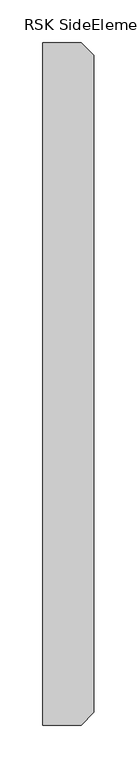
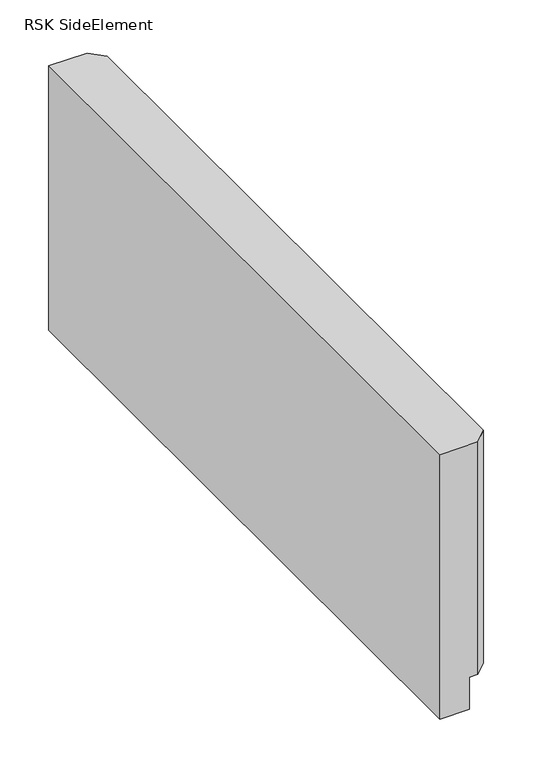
"""IFC4 building model written with IfcOpenShell, lengths in millimetres: proxy geometry, RAUSIKKO SX+HX SideElement : RSK SideElement."""

from ifc_helpers import new_model, si_unit, origin, place, context, project, spatial, faceted_brep, source, transform, mapped, element, save


def rsk_sideelement_a1a50405(model_context):
    return source(origin(), model_context, "Body", "Brep", [
        faceted_brep([(0.0, 0.0, 40.0), (0.0, 800.0, 40.0), (10.0, 800.0, 40.0), (25.0, 785.0, 40.0), (25.0, 15.0, 40.0), (10.0, 0.0, 40.0), (0.0, 0.0, 0.0), (0.0, 800.0, 0.0), (10.0, 0.0, 330.0), (25.0, 15.0, 330.0), (25.0, 785.0, 330.0), (10.0, 800.0, 330.0), (-35.0, 800.0, 330.0), (-35.0, 0.0, 330.0), (-35.0, 0.0, 0.0), (-35.0, 800.0, 0.0)], [[[0, 1, 2, 3, 4, 5]], [[1, 0, 6, 7]], [[8, 9, 10, 11, 12, 13]], [[14, 15, 7, 6]], [[8, 13, 14, 6, 0, 5]], [[13, 12, 15, 14]], [[12, 11, 2, 1, 7, 15]], [[11, 10, 3, 2]], [[10, 9, 4, 3]], [[9, 8, 5, 4]]]),
    ])


if __name__ == "__main__":
    model = new_model("IFC4")
    model_context = context("Model", 3, world=origin())
    ifc_project = project(units=[si_unit("LENGTHUNIT", "METRE", prefix="MILLI")], contexts=[model_context])
    site = spatial("IfcSite", under=ifc_project)
    building = spatial("IfcBuilding", under=site)
    placement = place(None, origin())
    rsk_sideelement_shape = rsk_sideelement_a1a50405(model_context)
    element("IfcBuildingElementProxy", 1, Name="RAUSIKKO SX+HX SideElement : RSK SideElement", ObjectType="RAUSIKKO SX+HX SideElement : RSK SideElement", at=placement, inside=building, context=model_context, shape_type="MappedRepresentation", body=[
        mapped(rsk_sideelement_shape, transform((0.0, 0.0, 0.0), x_axis=(1.0, 0.0, 0.0), y_axis=(0.0, 1.0, 0.0), z_axis=(0.0, 0.0, 1.0))),
    ])
    save(model, "model.ifc")
